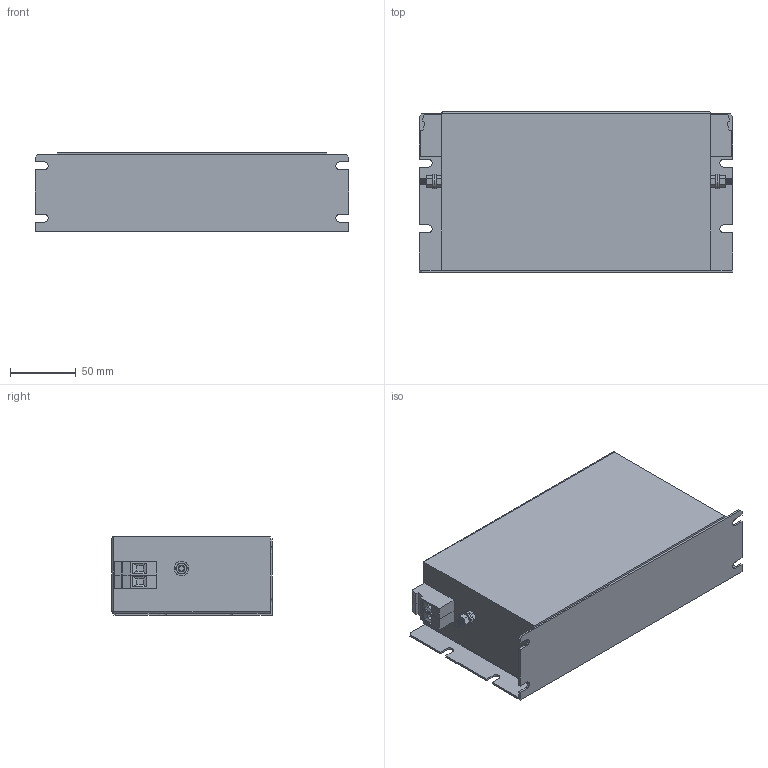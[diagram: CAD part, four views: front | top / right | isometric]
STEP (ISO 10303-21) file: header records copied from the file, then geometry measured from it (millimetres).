
FILE_DESCRIPTION (( 'STEP AP203' ), '1' );
FILE_NAME ('RF-1025, 1035-MHU.STEP', '2015-06-15T13:30:22', ( 'User' ), ( 'EPA' ), 'SwSTEP 2.0', 'SolidWorks 2008', '' );
FILE_SCHEMA (( 'CONFIG_CONTROL_DESIGN' ));
Length unit declared in the file: millimetre
Products named in the file (7): RF-1025, 1035-MHU; M5x13 Earth post; Hex Screw_AM_B18.6.7M - M5 x 0.8 x 13 Plain HHMS --13S; Flat Washer Narrow_AM_B18.22M - Plain washer, 5 mm, narrow; Hex Nut Style 1_AM_B18.2.4.1M - Hex nut, Style 1,  M5 x 0.8 --D-N; VDFK-6
Assembly tree (11 placements, depth 3):
  RF-1025, 1035-MHU
    M5x13 Earth post  x2
      Flat Washer Narrow_AM_B18.22M - Plain washer, 5 mm, narrow
      Hex Nut Style 1_AM_B18.2.4.1M - Hex nut, Style 1,  M5 x 0.8 --D-N
      Hex Screw_AM_B18.6.7M - M5 x 0.8 x 13 Plain HHMS --13S
    VDFK-6  x4
    RF-1025, 1035-MHU
Bounding box: 239 x 122 x 60 mm (x, y, z)
Volume: 1502752.5 mm3; surface area: 126913.8 mm2
Topology: 13 solids, 13 shells, 597 faces, 1489 edges, 934 vertices
Faces by surface type: plane 269, cone 176, cylinder 150, sphere 2
Entity records: 9165 total; most frequent: CARTESIAN_POINT 1568, DIRECTION 1496, ORIENTED_EDGE 1376, EDGE_CURVE 688, AXIS2_PLACEMENT_3D 560, VERTEX_POINT 432, VECTOR 376, LINE 376
